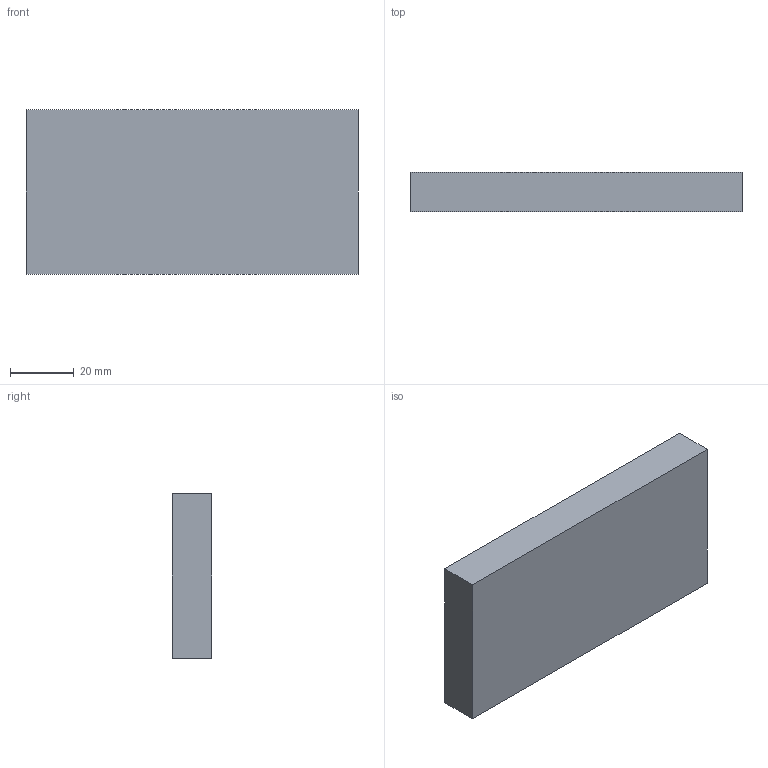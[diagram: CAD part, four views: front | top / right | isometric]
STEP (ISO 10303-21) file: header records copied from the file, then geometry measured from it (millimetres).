
FILE_DESCRIPTION(('Open CASCADE Model'),'2;1');
FILE_NAME('Open CASCADE Shape Model','2026-09-29T12:48:02',('Author'),( 'Open CASCADE'),'Open CASCADE STEP processor 7.9','Open CASCADE 7.9' ,'Unknown');
FILE_SCHEMA(('AUTOMOTIVE_DESIGN { 1 0 10303 214 1 1 1 1 }'));
Length unit declared in the file: millimetre
Products named in the file (1): Open CASCADE STEP translator 7.9 7
Bounding box: 103.8 x 12.3 x 51.3 mm (x, y, z)
Volume: 65496.8 mm3; surface area: 14465.3 mm2
Topology: 1 solids, 1 shells, 6 faces, 12 edges, 8 vertices
Faces by surface type: plane 6
Entity records: 322 total; most frequent: CARTESIAN_POINT 51, DIRECTION 50, LINE 36, VECTOR 36, ORIENTED_EDGE 24, PCURVE 24, DEFINITIONAL_REPRESENTATION 24, EDGE_CURVE 12
